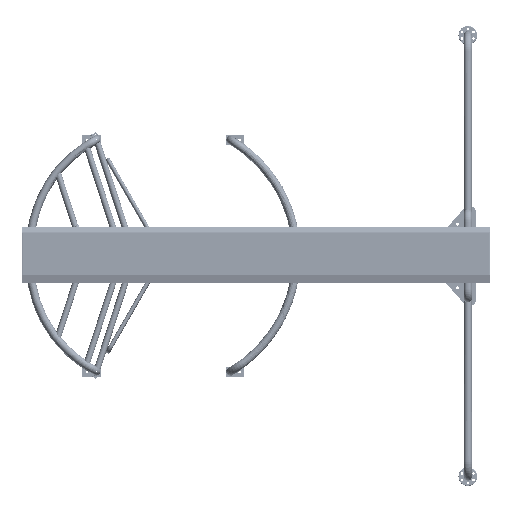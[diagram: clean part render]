
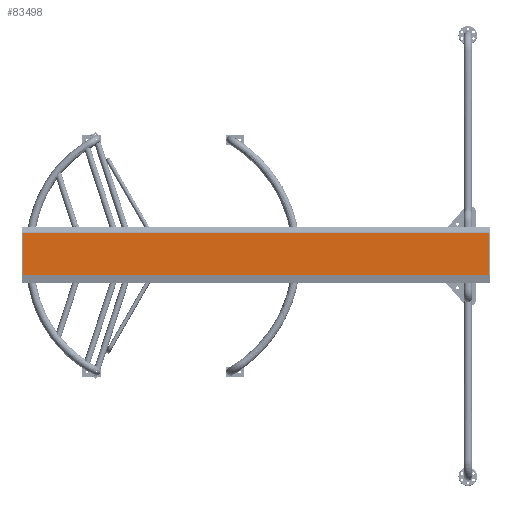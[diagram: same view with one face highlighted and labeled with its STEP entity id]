
A CAD part, top view. The second image highlights one B-rep face of the part: STEP entity #83498.
In plain terms, the highlighted planar face has unit normal (0, 0, 1).
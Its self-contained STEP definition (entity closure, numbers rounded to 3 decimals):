
#9271=LINE('',#192019,#14113);
#9332=LINE('',#192241,#14174);
#9338=LINE('',#192254,#14180);
#9340=LINE('',#192257,#14182);
#9341=LINE('',#192259,#14183);
#9342=LINE('',#192261,#14184);
#9343=LINE('',#192262,#14185);
#9344=LINE('',#192264,#14186);
#14113=VECTOR('',#122305,1000.);
#14174=VECTOR('',#122534,1000.);
#14180=VECTOR('',#122550,1000.);
#14182=VECTOR('',#122554,1000.);
#14183=VECTOR('',#122555,1000.);
#14184=VECTOR('',#122556,1000.);
#14185=VECTOR('',#122557,1000.);
#14186=VECTOR('',#122558,1000.);
#35212=ORIENTED_EDGE('',*,*,#47185,.F.);
#35213=ORIENTED_EDGE('',*,*,#47177,.T.);
#35214=ORIENTED_EDGE('',*,*,#47183,.F.);
#35215=ORIENTED_EDGE('',*,*,#47186,.T.);
#35216=ORIENTED_EDGE('',*,*,#47187,.F.);
#35217=ORIENTED_EDGE('',*,*,#47072,.T.);
#35218=ORIENTED_EDGE('',*,*,#47188,.F.);
#35219=ORIENTED_EDGE('',*,*,#47189,.T.);
#47072=EDGE_CURVE('',#55421,#55420,#9271,.T.);
#47177=EDGE_CURVE('',#55495,#55497,#9332,.T.);
#47183=EDGE_CURVE('',#55499,#55497,#9338,.T.);
#47185=EDGE_CURVE('',#55495,#55500,#9340,.T.);
#47186=EDGE_CURVE('',#55499,#55501,#9341,.T.);
#47187=EDGE_CURVE('',#55421,#55501,#9342,.T.);
#47188=EDGE_CURVE('',#55502,#55420,#9343,.T.);
#47189=EDGE_CURVE('',#55502,#55500,#9344,.T.);
#55420=VERTEX_POINT('',#192018);
#55421=VERTEX_POINT('',#192020);
#55495=VERTEX_POINT('',#192235);
#55497=VERTEX_POINT('',#192240);
#55499=VERTEX_POINT('',#192253);
#55500=VERTEX_POINT('',#192258);
#55501=VERTEX_POINT('',#192260);
#55502=VERTEX_POINT('',#192263);
#65987=EDGE_LOOP('',(#35212,#35213,#35214,#35215,#35216,#35217,#35218,#35219));
#74643=FACE_BOUND('',#65987,.T.);
#78325=PLANE('',#100551);
#83498=ADVANCED_FACE('',(#74643),#78325,.T.);
#100551=AXIS2_PLACEMENT_3D('',#192256,#122552,#122553);
#122305=DIRECTION('',(1.,0.,0.));
#122534=DIRECTION('',(-1.,0.,0.));
#122550=DIRECTION('',(0.,1.,0.));
#122552=DIRECTION('',(0.,0.,1.));
#122553=DIRECTION('',(0.,1.,0.));
#122554=DIRECTION('',(0.,-1.,0.));
#122555=DIRECTION('',(0.,-1.,0.));
#122556=DIRECTION('',(0.,1.,0.));
#122557=DIRECTION('',(0.,-1.,0.));
#122558=DIRECTION('',(0.,1.,0.));
#192018=CARTESIAN_POINT('',(1246.5,-107.13,209.988));
#192019=CARTESIAN_POINT('',(-1248.5,-107.13,209.988));
#192020=CARTESIAN_POINT('',(-1246.5,-107.13,209.988));
#192235=CARTESIAN_POINT('',(1246.5,121.491,209.988));
#192240=CARTESIAN_POINT('',(-1246.5,121.491,209.988));
#192241=CARTESIAN_POINT('',(1248.5,121.491,209.988));
#192253=CARTESIAN_POINT('',(-1246.5,121.489,209.988));
#192254=CARTESIAN_POINT('',(-1246.5,121.489,209.988));
#192256=CARTESIAN_POINT('',(1248.5,122.274,209.988));
#192257=CARTESIAN_POINT('',(1246.5,-107.128,209.988));
#192258=CARTESIAN_POINT('',(1246.5,121.489,209.988));
#192259=CARTESIAN_POINT('',(-1246.5,121.489,209.988));
#192260=CARTESIAN_POINT('',(-1246.5,-107.128,209.988));
#192261=CARTESIAN_POINT('',(-1246.5,121.489,209.988));
#192262=CARTESIAN_POINT('',(1246.5,-107.128,209.988));
#192263=CARTESIAN_POINT('',(1246.5,-107.128,209.988));
#192264=CARTESIAN_POINT('',(1246.5,-107.128,209.988));
